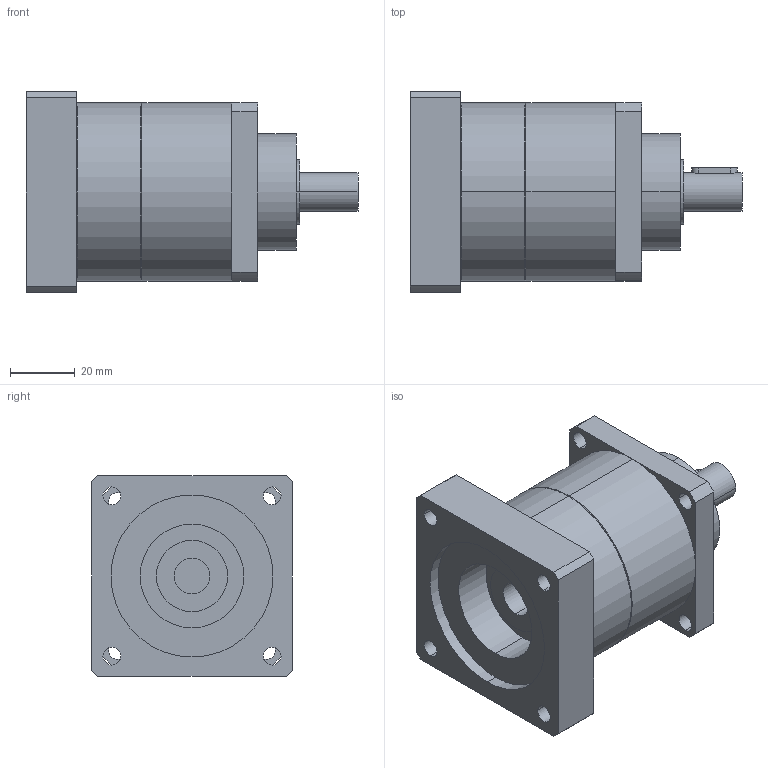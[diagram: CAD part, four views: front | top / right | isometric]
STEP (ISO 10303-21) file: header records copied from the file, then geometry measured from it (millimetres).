
FILE_DESCRIPTION(('CoCreate Modeling STEP Export'),'2;1');
FILE_NAME('GPT55_ig-3-4-5-7-10_12_B5A_11_P23.stp','2014-08-25T14:31:33',(''),(''),'CoCreate Modeling STEP processor for AP214 (Solid Model)','CoCreate Modeling 16.00C 25-Feb-2009 (C) Parametric Technology GmbH','');
FILE_SCHEMA(('AUTOMOTIVE_DESIGN { 1 0 10303 214 1 1 1 1 }'));
Length unit declared in the file: millimetre
Products named in the file (2): GPT55_ig-3-4-5-7-10_12_B5A_11_P23
Assembly tree (1 placements, depth 2):
  GPT55_ig-3-4-5-7-10_12_B5A_11_P23
    GPT55_ig-3-4-5-7-10_12_B5A_11_P23
Bounding box: 102.5 x 62 x 62 mm (x, y, z)
Volume: 192298.6 mm3; surface area: 29147.9 mm2
Topology: 1 solids, 1 shells, 77 faces, 204 edges, 139 vertices
Faces by surface type: cylinder 46, plane 27, cone 4
Entity records: 2515 total; most frequent: CARTESIAN_POINT 710, ORIENTED_EDGE 408, DIRECTION 318, EDGE_CURVE 204, VERTEX_POINT 139, AXIS2_PLACEMENT_3D 117, EDGE_LOOP 103, VECTOR 84
